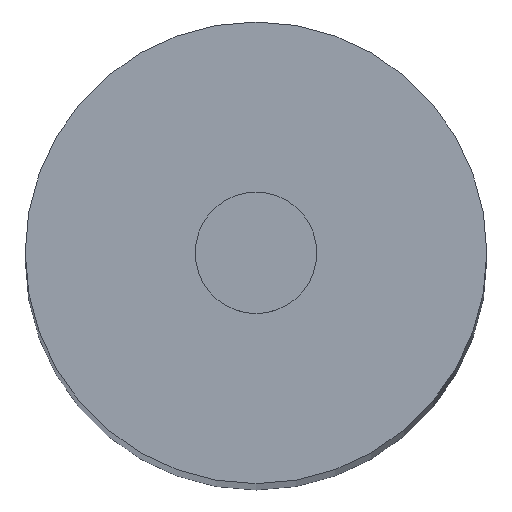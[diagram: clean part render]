
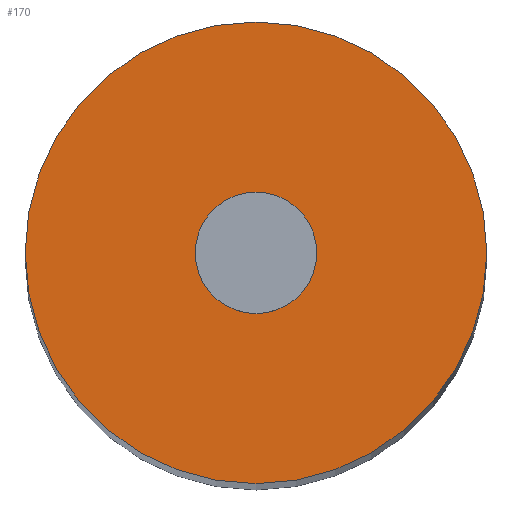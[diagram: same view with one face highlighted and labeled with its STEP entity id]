
A CAD part, top view. The second image highlights one B-rep face of the part: STEP entity #170.
In plain terms, the highlighted planar face has unit normal (0, 0, 1) as drawn and (-1, 0, 0) by its records, which use the part's own axes.
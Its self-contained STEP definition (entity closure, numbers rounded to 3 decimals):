
#15 = CARTESIAN_POINT ( 'NONE',  ( 0., 0., 0. ) ) ;
#16 = DIRECTION ( 'NONE',  ( 0., 0., 1. ) ) ;
#17 = DIRECTION ( 'NONE',  ( -1., 0., 0. ) ) ;
#18 = AXIS2_PLACEMENT_3D ( 'NONE', #15, #17, #16 ) ;
#19 = CIRCLE ( 'NONE', #18, 0.5 ) ;
#41 = VERTEX_POINT ( 'NONE', #205 ) ;
#49 = DIRECTION ( 'NONE',  ( 0., 0., -1. ) ) ;
#50 = DIRECTION ( 'NONE',  ( 1., 0., 0. ) ) ;
#51 = CARTESIAN_POINT ( 'NONE',  ( 0., 0., 0. ) ) ;
#52 = AXIS2_PLACEMENT_3D ( 'NONE', #51, #50, #49 ) ;
#53 = CIRCLE ( 'NONE', #52, 1.9 ) ;
#55 = CARTESIAN_POINT ( 'NONE',  ( 0., 0., -1.9 ) ) ;
#94 = VERTEX_POINT ( 'NONE', #55 ) ;
#96 = EDGE_CURVE ( 'NONE', #94, #41, #53, .T. ) ;
#163 = EDGE_CURVE ( 'NONE', #236, #233, #19, .T. ) ;
#164 = ORIENTED_EDGE ( 'NONE', *, *, #235, .F. ) ;
#165 = EDGE_LOOP ( 'NONE', ( #169, #223 ) ) ;
#169 = ORIENTED_EDGE ( 'NONE', *, *, #250, .F. ) ;
#170 = ADVANCED_FACE ( 'NONE', ( #253, #254 ), #255, .F. ) ;
#172 = ORIENTED_EDGE ( 'NONE', *, *, #163, .F. ) ;
#205 = CARTESIAN_POINT ( 'NONE',  ( 0., 0., 1.9 ) ) ;
#223 = ORIENTED_EDGE ( 'NONE', *, *, #96, .F. ) ;
#225 = EDGE_LOOP ( 'NONE', ( #172, #164 ) ) ;
#233 = VERTEX_POINT ( 'NONE', #293 ) ;
#235 = EDGE_CURVE ( 'NONE', #233, #236, #292, .T. ) ;
#236 = VERTEX_POINT ( 'NONE', #287 ) ;
#250 = EDGE_CURVE ( 'NONE', #41, #94, #327, .T. ) ;
#253 = FACE_BOUND ( 'NONE', #225, .T. ) ;
#254 = FACE_OUTER_BOUND ( 'NONE', #165, .T. ) ;
#255 = PLANE ( 'NONE',  #259 ) ;
#256 = DIRECTION ( 'NONE',  ( 0., 0., -1. ) ) ;
#257 = DIRECTION ( 'NONE',  ( 1., 0., 0. ) ) ;
#258 = CARTESIAN_POINT ( 'NONE',  ( 0., 0., 0. ) ) ;
#259 = AXIS2_PLACEMENT_3D ( 'NONE', #258, #257, #256 ) ;
#287 = CARTESIAN_POINT ( 'NONE',  ( 0., 0., 0.5 ) ) ;
#288 = DIRECTION ( 'NONE',  ( 0., 0., 1. ) ) ;
#289 = DIRECTION ( 'NONE',  ( -1., 0., 0. ) ) ;
#290 = CARTESIAN_POINT ( 'NONE',  ( 0., 0., 0. ) ) ;
#291 = AXIS2_PLACEMENT_3D ( 'NONE', #290, #289, #288 ) ;
#292 = CIRCLE ( 'NONE', #291, 0.5 ) ;
#293 = CARTESIAN_POINT ( 'NONE',  ( 0., 0., -0.5 ) ) ;
#323 = DIRECTION ( 'NONE',  ( 0., 0., -1. ) ) ;
#324 = DIRECTION ( 'NONE',  ( 1., 0., 0. ) ) ;
#325 = CARTESIAN_POINT ( 'NONE',  ( 0., 0., 0. ) ) ;
#326 = AXIS2_PLACEMENT_3D ( 'NONE', #325, #324, #323 ) ;
#327 = CIRCLE ( 'NONE', #326, 1.9 ) ;
